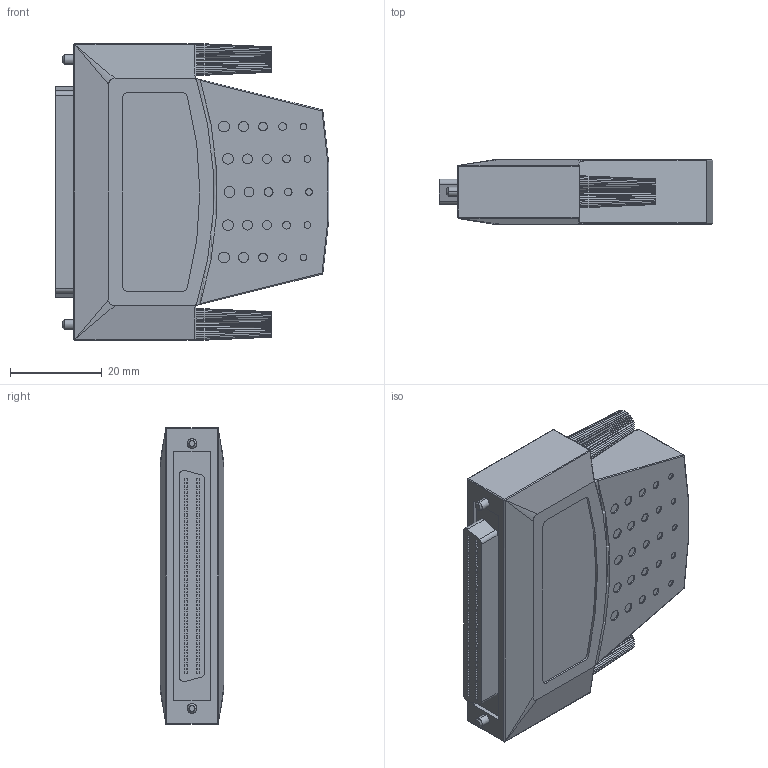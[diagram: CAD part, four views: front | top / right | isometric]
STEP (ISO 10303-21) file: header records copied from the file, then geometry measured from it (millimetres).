
FILE_DESCRIPTION((''),'2;1');
FILE_NAME('CU_SCSI-CABLE-OVERMOLD-68POS','2007-09-25T',('chrisj'),(''),'PRO/ENGINEER BY PARAMETRIC TECHNOLOGY CORPORATION, 2006300','PRO/ENGINEER BY PARAMETRIC TECHNOLOGY CORPORATION, 2006300','');
FILE_SCHEMA(('AUTOMOTIVE_DESIGN_CC2 { 1 2 10303 214 -1 1 5 2 }'));
Length unit declared in the file: inch
Products named in the file (1): CU_SCSI-CABLE-OVERMOLD-68POS
Bounding box: 59.81 x 13.97 x 64.93 mm (x, y, z)
Volume: 40995.5 mm3; surface area: 11653.4 mm2
Topology: 1 solids, 1 shells, 774 faces, 1882 edges, 1236 vertices
Faces by surface type: plane 605, cylinder 145, cone 10, bspline 6, torus 4, sphere 4
Entity records: 23392 total; most frequent: CARTESIAN_POINT 5017, ORIENTED_EDGE 3756, DIRECTION 3634, EDGE_CURVE 1878, VECTOR 1538, LINE 1538, VERTEX_POINT 1236, AXIS2_PLACEMENT_3D 1048
